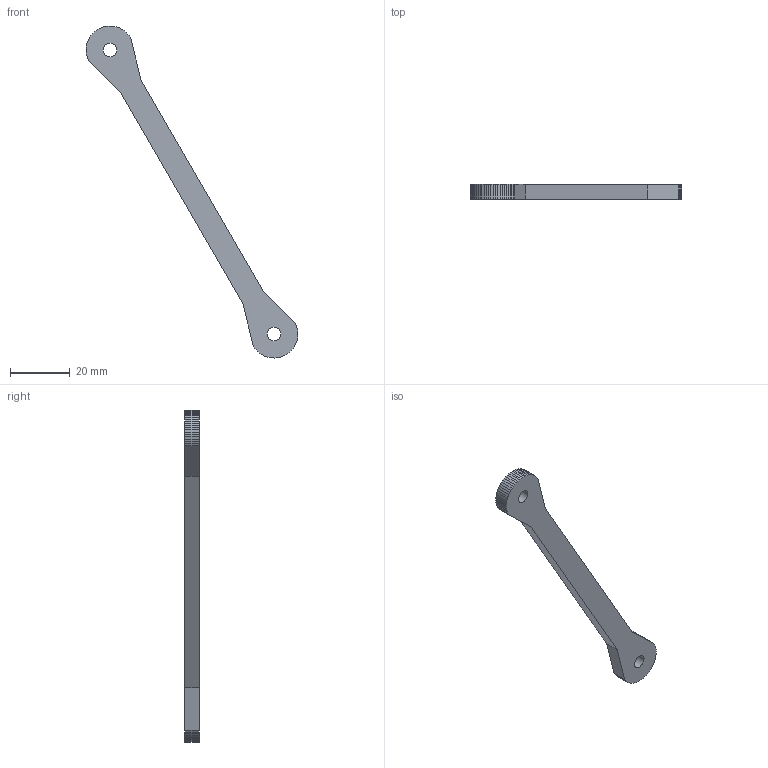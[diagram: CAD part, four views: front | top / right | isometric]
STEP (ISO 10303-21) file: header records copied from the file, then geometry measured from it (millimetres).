
FILE_DESCRIPTION(('Open CASCADE Model'),'2;1');
FILE_NAME('Open CASCADE Shape Model','2026-10-13T11:47:37',('Author'),( 'Open CASCADE'),'Open CASCADE STEP processor 7.8','Open CASCADE 7.8' ,'Unknown');
FILE_SCHEMA(('AUTOMOTIVE_DESIGN { 1 0 10303 214 1 1 1 1 }'));
Length unit declared in the file: millimetre
Products named in the file (1): Open CASCADE STEP translator 7.8 42
Bounding box: 70.99 x 5 x 111.25 mm (x, y, z)
Volume: 5804.7 mm3; surface area: 3825.7 mm2
Topology: 1 solids, 1 shells, 74 faces, 216 edges, 144 vertices
Faces by surface type: plane 72, cylinder 2
Full cylindrical faces by diameter (mm): 4.5 x2
Entity records: 5242 total; most frequent: CARTESIAN_POINT 891, DIRECTION 798, LINE 640, VECTOR 640, ORIENTED_EDGE 432, PCURVE 432, DEFINITIONAL_REPRESENTATION 432, EDGE_CURVE 216
